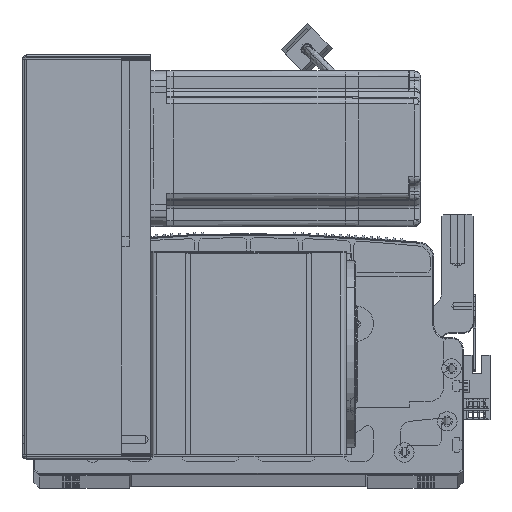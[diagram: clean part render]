
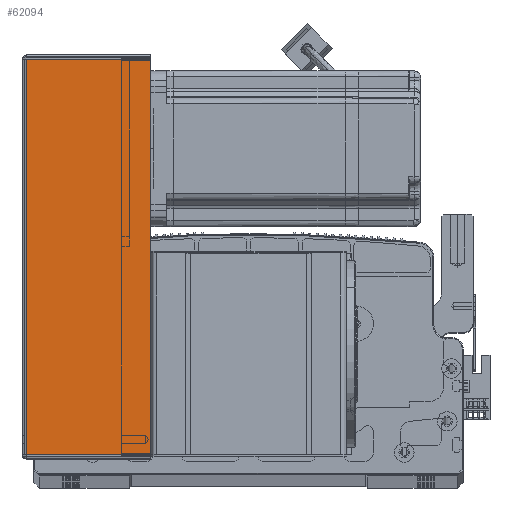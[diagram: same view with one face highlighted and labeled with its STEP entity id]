
A CAD part, top view. The second image highlights one B-rep face of the part: STEP entity #62094.
In plain terms, the highlighted planar face has unit normal (0, 0, 1) as drawn and (0, 1, 0) by its records, which use the part's own axes.
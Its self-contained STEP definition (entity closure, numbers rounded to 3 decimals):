
#1697 = EDGE_CURVE ( 'NONE', #42278, #47390, #4808, .T. ) ;
#4205 = FACE_OUTER_BOUND ( 'NONE', #86352, .T. ) ;
#4808 = LINE ( 'NONE', #59013, #87194 ) ;
#8247 = DIRECTION ( 'NONE',  ( 1., 0., 0. ) ) ;
#15402 = ORIENTED_EDGE ( 'NONE', *, *, #84791, .F. ) ;
#15464 = CARTESIAN_POINT ( 'NONE',  ( 0.737, 107.5, 0. ) ) ;
#17638 = PLANE ( 'NONE',  #25044 ) ;
#18250 = VECTOR ( 'NONE', #52012, 1000. ) ;
#25044 = AXIS2_PLACEMENT_3D ( 'NONE', #33030, #89527, #8247 ) ;
#27164 = EDGE_CURVE ( 'NONE', #27632, #101019, #96167, .T. ) ;
#27632 = VERTEX_POINT ( 'NONE', #53815 ) ;
#29994 = VECTOR ( 'NONE', #86346, 1000. ) ;
#33030 = CARTESIAN_POINT ( 'NONE',  ( 0., 107.5, 0. ) ) ;
#34515 = ORIENTED_EDGE ( 'NONE', *, *, #1697, .T. ) ;
#36659 = EDGE_CURVE ( 'NONE', #27632, #42278, #103216, .T. ) ;
#36830 = CARTESIAN_POINT ( 'NONE',  ( 64.5, 107.5, -0.707 ) ) ;
#42278 = VERTEX_POINT ( 'NONE', #36830 ) ;
#43145 = VECTOR ( 'NONE', #64798, 1000. ) ;
#47390 = VERTEX_POINT ( 'NONE', #90924 ) ;
#49128 = CARTESIAN_POINT ( 'NONE',  ( 0.737, 107.5, -203.293 ) ) ;
#52012 = DIRECTION ( 'NONE',  ( 1., 0., 0. ) ) ;
#53815 = CARTESIAN_POINT ( 'NONE',  ( 0.737, 107.5, -0.707 ) ) ;
#59013 = CARTESIAN_POINT ( 'NONE',  ( 64.5, 107.5, -204. ) ) ;
#61231 = ORIENTED_EDGE ( 'NONE', *, *, #27164, .F. ) ;
#62094 = ADVANCED_FACE ( 'NONE', ( #4205 ), #17638, .F. ) ;
#64798 = DIRECTION ( 'NONE',  ( 1., 0., 0. ) ) ;
#65577 = ORIENTED_EDGE ( 'NONE', *, *, #36659, .T. ) ;
#83693 = CARTESIAN_POINT ( 'NONE',  ( 0., 107.5, -0.707 ) ) ;
#84791 = EDGE_CURVE ( 'NONE', #101019, #47390, #88033, .T. ) ;
#86346 = DIRECTION ( 'NONE',  ( 0., 0., -1. ) ) ;
#86352 = EDGE_LOOP ( 'NONE', ( #61231, #65577, #34515, #15402 ) ) ;
#87194 = VECTOR ( 'NONE', #91067, 1000. ) ;
#88033 = LINE ( 'NONE', #88551, #43145 ) ;
#88551 = CARTESIAN_POINT ( 'NONE',  ( 0., 107.5, -203.293 ) ) ;
#89527 = DIRECTION ( 'NONE',  ( 0., -1., 0. ) ) ;
#90924 = CARTESIAN_POINT ( 'NONE',  ( 64.5, 107.5, -203.293 ) ) ;
#91067 = DIRECTION ( 'NONE',  ( 0., 0., -1. ) ) ;
#96167 = LINE ( 'NONE', #15464, #29994 ) ;
#101019 = VERTEX_POINT ( 'NONE', #49128 ) ;
#103216 = LINE ( 'NONE', #83693, #18250 ) ;
